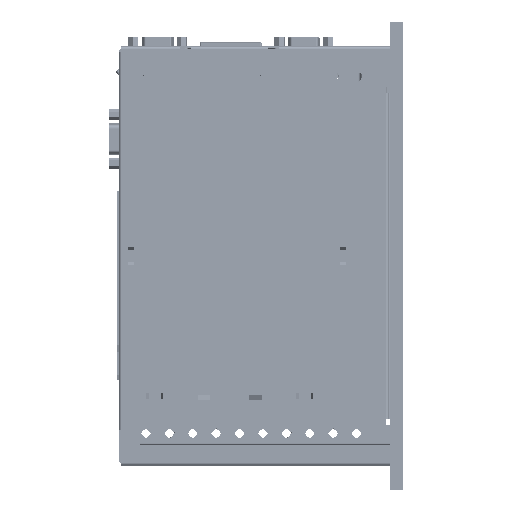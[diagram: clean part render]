
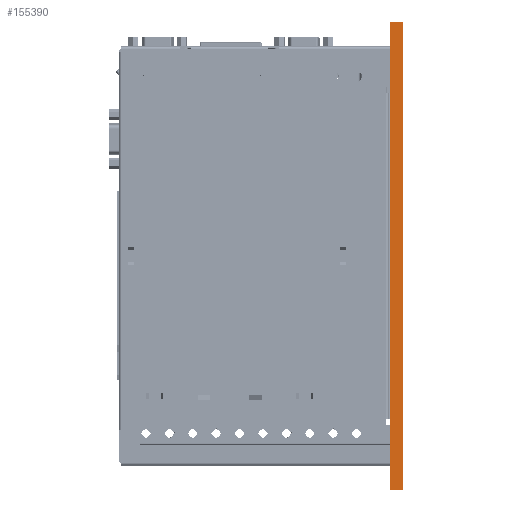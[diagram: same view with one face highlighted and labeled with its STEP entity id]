
A CAD part, left-side view. The second image highlights one B-rep face of the part: STEP entity #155390.
In plain terms, the highlighted planar face has unit normal (-1, 0, 0).
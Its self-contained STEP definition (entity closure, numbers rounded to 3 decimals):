
#3800 = VERTEX_POINT ( 'NONE', #52427 ) ;
#3808 = EDGE_CURVE ( 'NONE', #3800, #3809, #52423, .T. ) ;
#3809 = VERTEX_POINT ( 'NONE', #52412 ) ;
#52412 = CARTESIAN_POINT ( 'NONE',  ( -35., 3.5, -107.5 ) ) ;
#52414 = DIRECTION ( 'NONE',  ( 0., 1., 0. ) ) ;
#52415 = VECTOR ( 'NONE', #52414, 1000. ) ;
#52417 = CARTESIAN_POINT ( 'NONE',  ( -35., -3.5, -107.5 ) ) ;
#52423 = LINE ( 'NONE', #52417, #52415 ) ;
#52427 = CARTESIAN_POINT ( 'NONE',  ( -35., -3.5, -107.5 ) ) ;
#143829 = CARTESIAN_POINT ( 'NONE',  ( -35., 3.5, 132.5 ) ) ;
#143833 = DIRECTION ( 'NONE',  ( 0., 0., -1. ) ) ;
#143834 = VECTOR ( 'NONE', #143833, 1000. ) ;
#143836 = CARTESIAN_POINT ( 'NONE',  ( -35., 3.5, 132.5 ) ) ;
#143837 = LINE ( 'NONE', #143836, #143834 ) ;
#146969 = FACE_OUTER_BOUND ( 'NONE', #155396, .T. ) ;
#147022 = CARTESIAN_POINT ( 'NONE',  ( -35., -3.5, 132.5 ) ) ;
#147026 = DIRECTION ( 'NONE',  ( 0., 1., 0. ) ) ;
#147028 = VECTOR ( 'NONE', #147026, 1000. ) ;
#147032 = CARTESIAN_POINT ( 'NONE',  ( -35., 3.5, 132.5 ) ) ;
#147034 = LINE ( 'NONE', #147032, #147028 ) ;
#147086 = DIRECTION ( 'NONE',  ( 0., 0., 1. ) ) ;
#147088 = DIRECTION ( 'NONE',  ( -1., 0., 0. ) ) ;
#147090 = CARTESIAN_POINT ( 'NONE',  ( -35., 3.5, 132.5 ) ) ;
#147091 = AXIS2_PLACEMENT_3D ( 'NONE', #147090, #147088, #147086 ) ;
#147097 = PLANE ( 'NONE',  #147091 ) ;
#147421 = DIRECTION ( 'NONE',  ( 0., 0., -1. ) ) ;
#147423 = VECTOR ( 'NONE', #147421, 1000. ) ;
#147425 = CARTESIAN_POINT ( 'NONE',  ( -35., -3.5, 132.5 ) ) ;
#147427 = LINE ( 'NONE', #147425, #147423 ) ;
#154675 = EDGE_CURVE ( 'NONE', #154678, #3809, #143837, .T. ) ;
#154678 = VERTEX_POINT ( 'NONE', #143829 ) ;
#155224 = ORIENTED_EDGE ( 'NONE', *, *, #3808, .F. ) ;
#155373 = EDGE_CURVE ( 'NONE', #155376, #154678, #147034, .T. ) ;
#155376 = VERTEX_POINT ( 'NONE', #147022 ) ;
#155390 = ADVANCED_FACE ( 'NONE', ( #146969 ), #147097, .T. ) ;
#155396 = EDGE_LOOP ( 'NONE', ( #155224, #155464, #155471, #155474 ) ) ;
#155464 = ORIENTED_EDGE ( 'NONE', *, *, #155466, .F. ) ;
#155466 = EDGE_CURVE ( 'NONE', #155376, #3800, #147427, .T. ) ;
#155471 = ORIENTED_EDGE ( 'NONE', *, *, #155373, .T. ) ;
#155474 = ORIENTED_EDGE ( 'NONE', *, *, #154675, .T. ) ;
